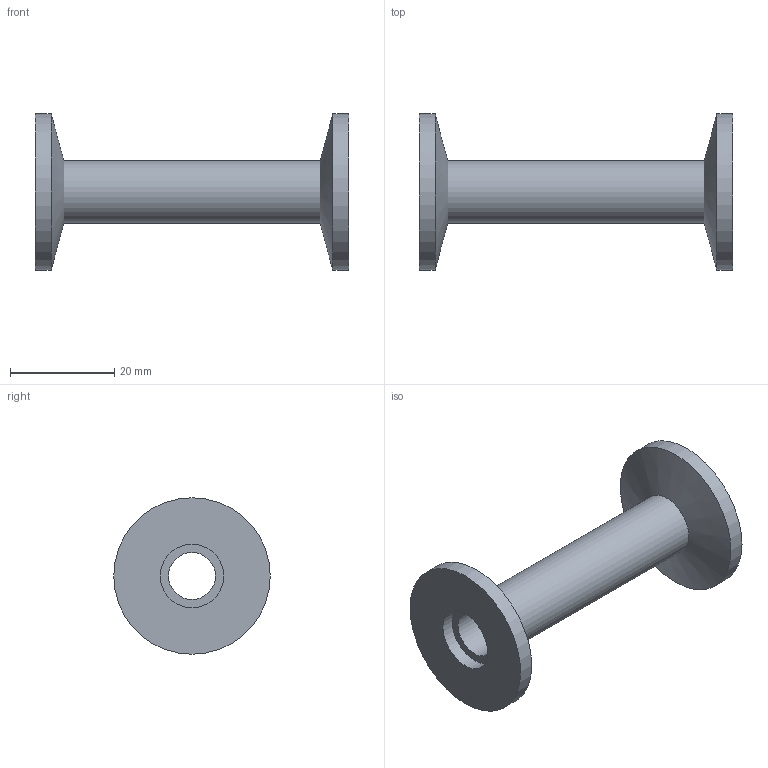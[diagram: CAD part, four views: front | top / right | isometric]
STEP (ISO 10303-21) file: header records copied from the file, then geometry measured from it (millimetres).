
FILE_DESCRIPTION( ( 'Unknown' ), '1' );
FILE_NAME( 'X:/Daten ( aktueller Bestand )/Projekte und Zeichnungen/Solid Edge/STP-Dateien/KF/11714.stp', 'Unknown', ( 'Unknown' ), ( 'Unknown' ), 'PSStep 14.0', 'Unknown', ' ' );
FILE_SCHEMA( ( 'AUTOMOTIVE_DESIGN { 1 0 10303 214 1 1 1 1 }' ) );
Length unit declared in the file: millimetre
Products named in the file (2): Assem1; 1
Assembly tree (1 placements, depth 2):
  Assem1
    1
Bounding box: 60 x 30 x 30 mm (x, y, z)
Volume: 7492.3 mm3; surface area: 6682 mm2
Topology: 1 solids, 1 shells, 12 faces, 20 edges, 12 vertices
Faces by surface type: cylinder 6, plane 4, cone 2
Full cylindrical faces by diameter (mm): 9 x1, 12 x1, 12.2 x2, 30 x2
Entity records: 382 total; most frequent: DIRECTION 52, CARTESIAN_POINT 38, AXIS2_PLACEMENT_3D 26, EDGE_LOOP 24, ORIENTED_EDGE 24, FACE_OUTER_BOUND 18, STYLED_ITEM 12, PRESENTATION_STYLE_ASSIGNMENT 12
